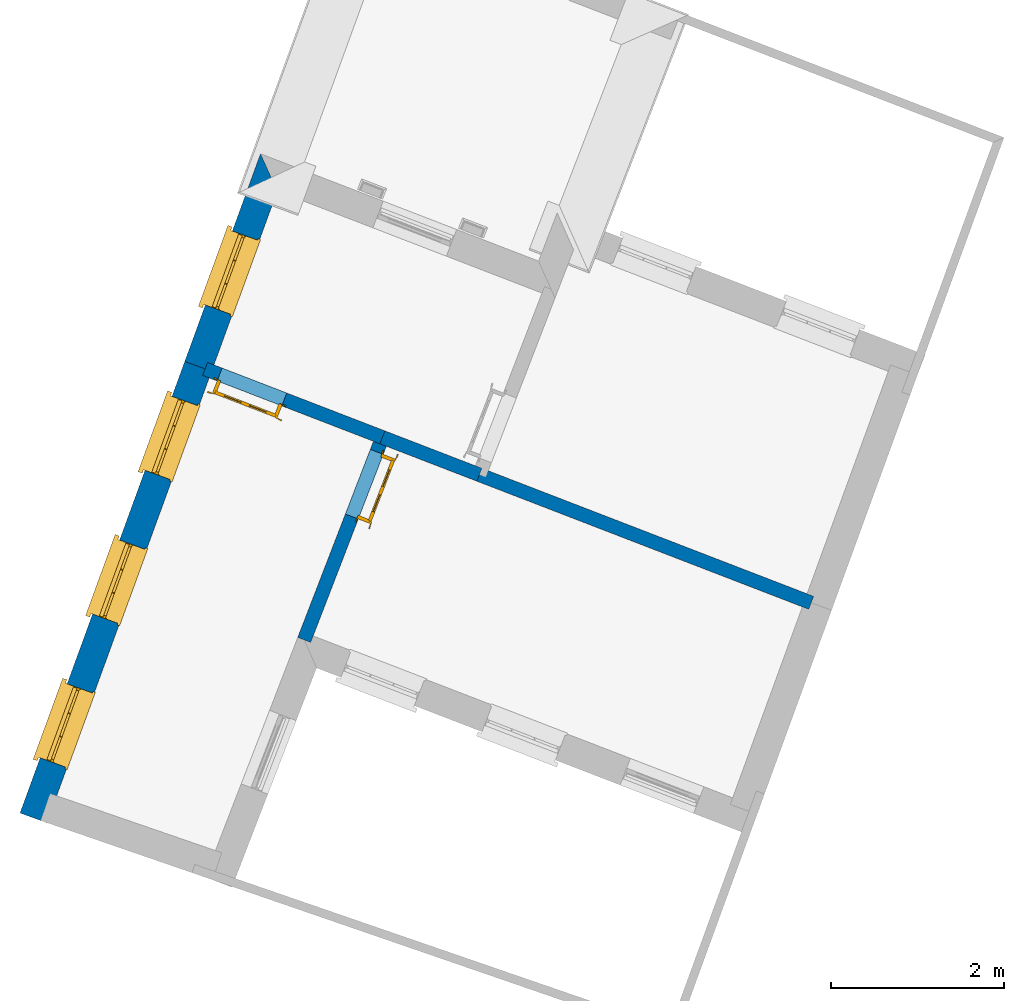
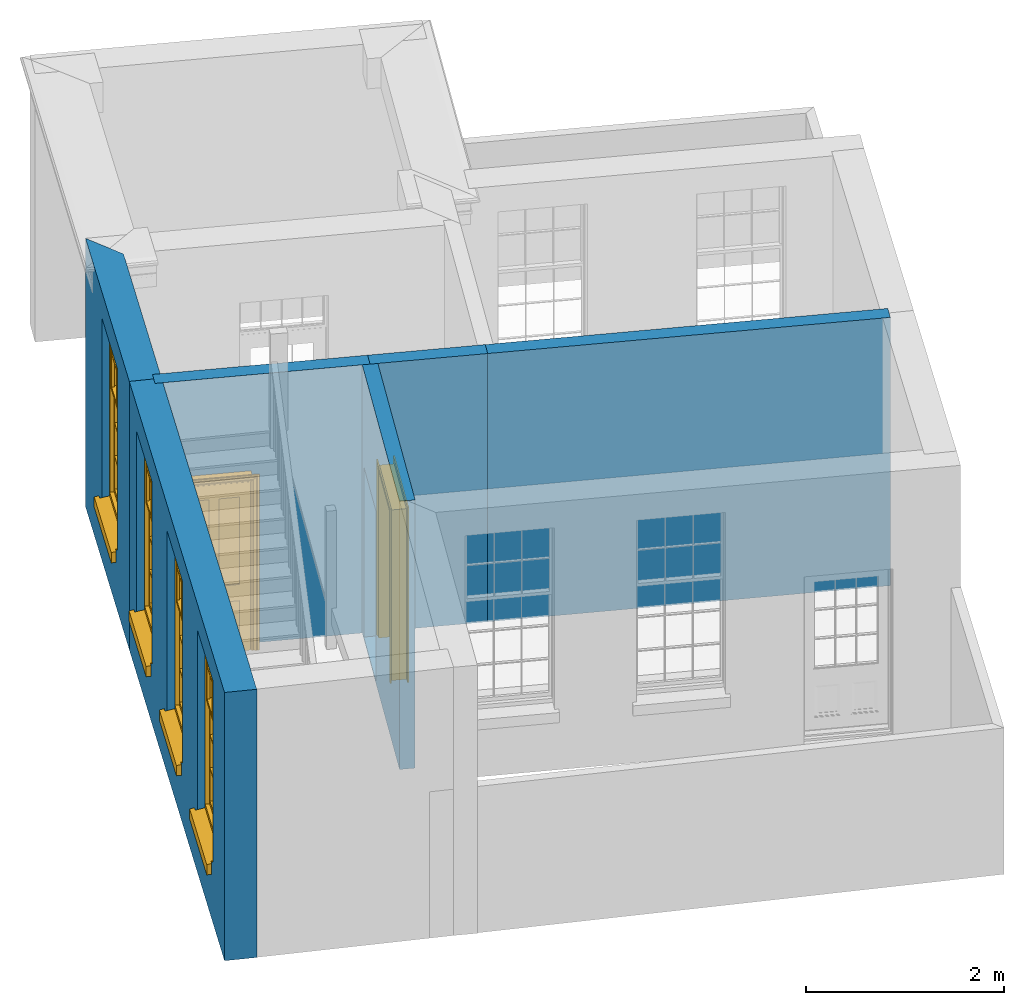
# One storey, part 3 of 6: 6 walls, 4 windows, 2 doors, 6 openings.
"""IFC4 building model written with IfcOpenShell, lengths in metres."""

from ifc_helpers import new_model, si_unit, frame, origin, origin_with_axes, place, context, subcontext, project, spatial, polyline, outline, extrude, faceted_brep, source, transform, mapped, material, layer, layer_set, layer_usage, type_object, type_shapes, element, fill, save


model = new_model("IFC4")

# Units and contexts
model_context = context("Model", 3, world=origin_with_axes())
body_context = subcontext(model_context, "Body", "Model", "MODEL_VIEW")
ifc_project = project(units=[si_unit("PLANEANGLEUNIT", "RADIAN"), si_unit("MASSUNIT", "GRAM", prefix="KILO"), si_unit("FORCEUNIT", "NEWTON", prefix="KILO"), si_unit("LENGTHUNIT", "METRE"), si_unit("AREAUNIT", "SQUARE_METRE"), si_unit("VOLUMEUNIT", "CUBIC_METRE")], contexts=[model_context, model_context])

# Sites, building, storey
site_1_placement = place(None, origin_with_axes())
site_1 = spatial("IfcSite", under=ifc_project, at=site_1_placement, Name="Tamar")
site_2_placement = place(site_1_placement, origin_with_axes())
site_2 = spatial("IfcSite", under=site_1, at=site_2_placement, Name="Site plot-11", CompositionType="ELEMENT")
building_placement = place(None, origin_with_axes())
building = spatial("IfcBuilding", under=site_2, at=building_placement, Name="Building plot-11", CompositionType="ELEMENT")
storey_placement = place(None, frame((0.0, 0.0, 26.8), z_axis=(0.0, 0.0, 1.0), x_axis=(1.0, 0.0, 0.0)))
storey = spatial("IfcBuildingStorey", under=building, at=storey_placement, Name="plot-11 0", CompositionType="ELEMENT", Elevation=26.8)

# Wall, opening, window
ifc_material_1 = material(Name="Masonry")
ifc_layer_1 = layer(ifc_material_1, 0.33, ventilated=False)
ifc_layer_set_1 = layer_set([ifc_layer_1], Name="exterior_0.08_0.25")
ifc_layer_usage_1 = layer_usage(ifc_layer_set_1, "AXIS2", "POSITIVE", -0.25)
wall_type_1 = type_object("IfcWallType", Name="exterior_0.08_0.25", PredefinedType="SOLIDWALL", material=ifc_layer_set_1)
wall_1_placement = place(storey_placement, frame((241.07547392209, 317.190174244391, 0.0), z_axis=(0.0, 0.0, 1.0), x_axis=(-0.342734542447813, -0.939432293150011, 0.0)))
wall_1 = element("IfcWall", 1, at=wall_1_placement, inside=storey, type_object=wall_type_1, material=ifc_layer_usage_1, Name="exterior", context=body_context, shape_type="SweptSolid", body=[
    extrude(outline(polyline([(0.0814951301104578, 0.0799999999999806), (-0.254672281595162, -0.250000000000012), (2.29763429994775, -0.250000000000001), (2.29763429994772, 0.0799999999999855), (0.0814951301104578, 0.0799999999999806)])), origin_with_axes(), (0.0, 0.0, 1.0), 3.3),
])
opening_1_placement = place(wall_1_placement, frame((0.693817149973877, 0.0, 0.75)))
opening_1 = element("IfcOpeningElement", 2, at=opening_1_placement, cuts=wall_1, Name="My Opening", ObjectType="Opening", context=body_context, shape_type="SweptSolid", body=[
    extrude(outline(polyline([(0.0, -0.270000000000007), (0.910000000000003, -0.269999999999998), (0.910000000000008, 1.10000000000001), (3.5527136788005e-15, 1.1), (0.0, -0.270000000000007)])), origin_with_axes(), (0.0, 0.0, 1.0), 2.23),
])
window_type = type_object("IfcWindowType", Name="sash_big_taller", PartitioningType="DOUBLE_PANEL_HORIZONTAL", PredefinedType="NOTDEFINED")
shared_shape_1 = source(origin(), body_context, "Body", "Brep", [
    faceted_brep([(0.033125, 0.145, 1.385209), (0.01, 0.145, 1.385209), (0.033125, 0.145, 1.786042), (0.876875, 0.145, 1.385209), (0.876875, 0.145, 1.786042), (0.9, 0.145, 1.385209), (0.876875, 0.145, 1.796042), (0.876875, 0.145, 2.196875), (0.9, 0.145, 2.22), (0.033125, 0.145, 2.196875), (0.033125, 0.145, 1.796042), (0.01, 0.145, 2.22), (0.876875, 0.115, 1.786042), (0.876875, 0.115, 1.385209), (0.9, 0.115, 1.347084), (0.033125, 0.115, 2.196875), (0.01, 0.115, 2.22), (0.033125, 0.115, 1.796042), (0.01, 0.115, 1.347084), (0.033125, 0.115, 1.385209), (0.033125, 0.115, 1.786042), (0.876875, 0.115, 2.196875), (0.876875, 0.115, 1.796042), (0.9, 0.115, 2.22), (0.033125, 0.145, 1.347084), (0.01, 0.145, 1.347084), (0.033125, 0.145, 0.94625), (0.876875, 0.145, 1.347084), (0.876875, 0.145, 0.94625), (0.9, 0.145, 1.347084), (0.876875, 0.145, 0.52625), (0.876875, 0.145, 0.125417), (0.9, 0.145, 0.077167), (0.033125, 0.145, 0.125417), (0.033125, 0.145, 0.52625), (0.01, 0.145, 0.077167), (-0.0425, 0.0, 0.01), (-0.0425, -0.05, 0.001667), (0.0, 0.0, 0.01), (0.9525, 0.0, 0.01), (0.91, 0.0, 0.01), (0.9525, -0.05, 0.001667), (-0.02, 0.33, 0.077167), (0.0, 0.33, 0.077167), (-0.02, 0.36, 0.077167), (0.0, 0.19, 0.077167), (0.01, 0.19, 0.077167), (0.91, 0.19, 0.077167), (0.91, 0.33, 0.077167), (0.9, 0.19, 0.077167), (0.93, 0.33, 0.077167), (0.93, 0.36, 0.077167), (0.01, 0.175, 1.385209), (0.9, 0.175, 1.385209), (0.876875, 0.175, 0.125417), (0.876875, 0.175, 0.52625), (0.9, 0.175, 0.077167), (0.876875, 0.175, 0.94625), (0.876875, 0.175, 1.347084), (0.033125, 0.175, 0.125417), (0.01, 0.175, 0.077167), (0.033125, 0.175, 0.52625), (0.033125, 0.175, 1.347084), (0.033125, 0.175, 0.94625), (-0.02, 0.33, 0.052167), (-0.02, 0.36, 0.052167), (0.93, 0.36, 0.052167), (0.93, 0.33, 0.052167), (0.91, 0.33, 0.052167), (0.0, 0.33, 0.052167), (0.91, 0.1, 0.026667), (0.0, 0.1, 0.026667), (-0.0425, -0.05, -0.123333), (0.9525, -0.05, -0.123333), (-0.0425, 0.0, -0.123333), (0.9525, 0.0, -0.123333), (0.01, 0.19, 2.22), (0.9, 0.19, 2.22), (0.0, 0.19, 2.23), (0.91, 0.19, 2.23), (0.01, 0.1, 0.077167), (0.9, 0.1, 0.077167), (0.592292, 0.145, 0.125417), (0.592292, 0.175, 0.125417), (0.317708, 0.175, 0.125417), (0.317708, 0.145, 0.125417), (0.592292, 0.145, 0.53625), (0.317708, 0.145, 0.53625), (0.317708, 0.145, 0.52625), (0.592292, 0.145, 0.52625), (0.592292, 0.175, 0.53625), (0.317708, 0.175, 0.53625), (0.592292, 0.115, 1.796042), (0.592292, 0.145, 1.796042), (0.317708, 0.145, 1.796042), (0.317708, 0.115, 1.796042), (0.317708, 0.115, 1.786042), (0.592292, 0.115, 1.786042), (0.317708, 0.145, 1.786042), (0.592292, 0.145, 1.786042), (0.602292, 0.115, 1.786042), (0.592292, 0.115, 1.385209), (0.602292, 0.115, 1.385209), (0.602292, 0.145, 1.385209), (0.592292, 0.145, 1.385209), (0.602292, 0.145, 1.786042), (0.876875, 0.145, 0.53625), (0.876875, 0.175, 0.53625), (0.602292, 0.175, 0.53625), (0.602292, 0.145, 0.53625), (0.317708, 0.175, 0.52625), (0.307708, 0.175, 0.125417), (0.307708, 0.175, 0.52625), (0.602292, 0.175, 0.52625), (0.602292, 0.175, 0.125417), (0.592292, 0.175, 0.52625), (0.307708, 0.175, 0.53625), (0.033125, 0.175, 0.53625), (0.317708, 0.175, 1.347084), (0.317708, 0.175, 0.94625), (0.307708, 0.175, 0.94625), (0.307708, 0.175, 1.347084), (0.602292, 0.175, 1.347084), (0.602292, 0.175, 0.94625), (0.592292, 0.175, 0.94625), (0.592292, 0.175, 1.347084), (0.307708, 0.145, 0.52625), (0.307708, 0.145, 0.125417), (0.307708, 0.145, 0.53625), (0.033125, 0.145, 0.53625), (0.307708, 0.145, 1.347084), (0.307708, 0.145, 0.94625), (0.592292, 0.145, 1.347084), (0.592292, 0.145, 0.94625), (0.317708, 0.145, 0.94625), (0.317708, 0.145, 1.347084), (0.602292, 0.145, 0.94625), (0.602292, 0.145, 1.347084), (0.602292, 0.145, 0.52625), (0.602292, 0.145, 0.125417), (0.307708, 0.115, 1.796042), (0.307708, 0.115, 1.786042), (0.307708, 0.115, 1.385209), (0.317708, 0.115, 1.385209), (0.317708, 0.115, 2.196875), (0.307708, 0.115, 2.196875), (0.602292, 0.115, 2.196875), (0.592292, 0.115, 2.196875), (0.602292, 0.115, 1.796042), (0.602292, 0.145, 1.796042), (0.307708, 0.145, 1.796042), (0.307708, 0.145, 2.196875), (0.317708, 0.145, 2.196875), (0.592292, 0.145, 2.196875), (0.602292, 0.145, 2.196875), (0.307708, 0.145, 1.786042), (0.317708, 0.145, 1.385209), (0.307708, 0.145, 1.385209), (0.876875, 0.175, 0.93625), (0.033125, 0.175, 0.93625), (0.033125, 0.145, 0.93625), (0.876875, 0.145, 0.93625), (0.91, 0.1, 2.23), (0.9, 0.1, 2.22), (0.01, 0.1, 2.22), (0.0, 0.1, 2.23), (0.91, 0.0, 0.0), (0.0, 0.0, 0.0), (0.91, 0.33, 0.0), (0.0, 0.33, 0.0), (0.317708, 0.145, 0.93625), (0.592292, 0.145, 0.93625), (0.317708, 0.175, 0.93625), (0.307708, 0.175, 0.93625), (0.602292, 0.175, 0.93625), (0.592292, 0.175, 0.93625), (0.307708, 0.145, 0.93625), (0.602292, 0.145, 0.93625)], [[[0, 1, 2]], [[3, 4, 5]], [[6, 7, 8]], [[9, 10, 11]], [[12, 13, 14]], [[15, 16, 17]], [[18, 19, 20]], [[21, 22, 23]], [[24, 25, 26]], [[27, 28, 29]], [[30, 31, 32]], [[33, 34, 35]], [[14, 27, 29]], [[25, 24, 18]], [[36, 37, 38]], [[39, 40, 41]], [[42, 43, 44]], [[45, 46, 43]], [[47, 48, 49]], [[50, 51, 48]], [[1, 0, 52]], [[5, 53, 3]], [[54, 55, 56]], [[57, 58, 53]], [[59, 60, 61]], [[62, 63, 52]], [[48, 43, 46, 49]], [[51, 44, 43, 48]], [[64, 42, 44, 65]], [[65, 44, 51, 66]], [[66, 51, 50, 67]], [[65, 66, 68, 69]], [[60, 56, 49, 46]], [[70, 71, 38, 40]], [[37, 41, 40, 38]], [[37, 72, 73, 41]], [[74, 75, 73, 72]], [[8, 11, 76, 77]], [[76, 78, 79, 77]], [[32, 35, 80, 81]], [[81, 80, 71, 70]], [[82, 83, 84, 85]], [[86, 87, 88, 89]], [[86, 90, 91, 87]], [[92, 93, 94, 95]], [[92, 95, 96, 97]], [[96, 98, 99, 97]], [[100, 97, 101, 102]], [[103, 104, 99, 105]], [[97, 99, 104, 101]], [[102, 103, 105, 100]], [[106, 107, 108, 109]], [[110, 84, 111, 112]], [[113, 114, 83, 115]], [[116, 112, 61, 117]], [[90, 115, 110, 91]], [[118, 119, 120, 121]], [[122, 123, 124, 125]], [[113, 108, 107, 55]], [[126, 112, 111, 127]], [[34, 61, 112, 126]], [[89, 115, 83, 82]], [[88, 110, 115, 89]], [[85, 84, 110, 88]], [[128, 116, 117, 129]], [[130, 121, 120, 131]], [[132, 125, 124, 133]], [[134, 119, 118, 135]], [[136, 123, 122, 137]], [[138, 113, 55, 30]], [[139, 114, 113, 138]], [[138, 30, 106, 109]], [[88, 126, 127, 85]], [[138, 89, 82, 139]], [[137, 132, 133, 136]], [[128, 129, 34, 126]], [[135, 130, 131, 134]], [[140, 17, 20, 141]], [[96, 141, 142, 143]], [[144, 145, 140, 95]], [[146, 147, 92, 148]], [[100, 12, 22, 148]], [[149, 6, 4, 105]], [[94, 150, 151, 152]], [[149, 93, 153, 154]], [[99, 98, 94, 93]], [[155, 2, 10, 150]], [[156, 157, 155, 98]], [[141, 155, 157, 142]], [[20, 2, 155, 141]], [[143, 156, 98, 96]], [[140, 150, 10, 17]], [[145, 151, 150, 140]], [[147, 153, 93, 92]], [[95, 94, 152, 144]], [[22, 6, 149, 148]], [[148, 149, 154, 146]], [[100, 105, 4, 12]], [[109, 86, 89, 138]], [[108, 113, 115, 90]], [[91, 110, 112, 116]], [[87, 128, 126, 88]], [[97, 100, 148, 92]], [[141, 96, 95, 140]], [[98, 155, 150, 94]], [[105, 99, 93, 149]], [[143, 101, 104, 156]], [[135, 118, 125, 132]], [[144, 152, 153, 147]], [[127, 111, 59, 33]], [[15, 9, 151, 145]], [[146, 154, 7, 21]], [[31, 54, 114, 139]], [[36, 74, 72, 37]], [[39, 41, 73, 75]], [[18, 14, 101, 143]], [[23, 16, 144, 147]], [[83, 56, 60, 84]], [[52, 53, 125, 118]], [[53, 52, 156, 104]], [[11, 8, 153, 152]], [[14, 18, 135, 132]], [[2, 1, 11, 10]], [[8, 5, 4, 6]], [[57, 53, 56, 158]], [[60, 52, 63, 159]], [[26, 25, 35, 160]], [[32, 29, 28, 161]], [[14, 23, 22, 12]], [[18, 20, 17, 16]], [[19, 0, 2, 20]], [[17, 10, 9, 15]], [[12, 4, 3, 13]], [[21, 7, 6, 22]], [[27, 58, 57, 28]], [[30, 55, 54, 31]], [[33, 59, 61, 34]], [[26, 63, 62, 24]], [[5, 8, 77, 53]], [[76, 11, 1, 52]], [[46, 45, 78, 76]], [[49, 77, 79, 47]], [[70, 162, 163, 81]], [[71, 80, 164, 165]], [[19, 142, 157, 0]], [[102, 13, 3, 103]], [[121, 130, 24, 62]], [[29, 32, 81, 14]], [[80, 35, 25, 18]], [[60, 46, 76, 52]], [[77, 49, 56, 53]], [[23, 14, 81, 163]], [[16, 164, 80, 18]], [[35, 85, 127]], [[127, 33, 35]], [[139, 82, 32]], [[32, 31, 139]], [[32, 82, 85, 35]], [[102, 101, 14]], [[14, 13, 102]], [[18, 143, 142]], [[142, 19, 18]], [[146, 21, 23]], [[23, 147, 146]], [[16, 15, 145]], [[145, 144, 16]], [[11, 152, 151]], [[151, 9, 11]], [[154, 153, 8]], [[8, 7, 154]], [[23, 163, 164, 16]], [[162, 165, 164, 163]], [[52, 118, 121]], [[121, 62, 52]], [[125, 53, 122]], [[58, 122, 53]], [[27, 137, 122, 58]], [[56, 83, 114]], [[114, 54, 56]], [[111, 84, 60]], [[60, 59, 111]], [[137, 27, 14]], [[14, 132, 137]], [[130, 135, 18]], [[18, 24, 130]], [[157, 156, 52]], [[52, 0, 157]], [[103, 3, 53]], [[53, 104, 103]], [[79, 78, 165, 162]], [[78, 45, 71, 165]], [[162, 70, 47, 79]], [[166, 75, 74, 167]], [[68, 66, 67]], [[48, 68, 67, 50]], [[69, 64, 65]], [[42, 64, 69, 43]], [[69, 68, 168, 169]], [[70, 68, 48, 47]], [[166, 168, 68, 70]], [[43, 69, 71, 45]], [[69, 169, 167, 71]], [[168, 166, 167, 169]], [[38, 167, 74, 36]], [[71, 167, 38]], [[39, 75, 166, 40]], [[40, 166, 70]], [[133, 134, 170, 171]], [[133, 124, 119, 134]], [[28, 57, 123, 136]], [[172, 91, 116, 173]], [[174, 108, 90, 175]], [[120, 173, 159, 63]], [[124, 175, 172, 119]], [[174, 123, 57, 158]], [[176, 173, 116, 128]], [[160, 159, 173, 176]], [[171, 175, 90, 86]], [[170, 172, 175, 171]], [[87, 91, 172, 170]], [[131, 120, 63, 26]], [[177, 174, 158, 161]], [[109, 108, 174, 177]], [[177, 161, 28, 136]], [[170, 176, 128, 87]], [[177, 171, 86, 109]], [[131, 26, 160, 176]], [[136, 133, 171, 177]], [[123, 174, 175, 124]], [[119, 172, 173, 120]], [[134, 131, 176, 170]], [[129, 117, 159, 160]], [[161, 158, 107, 106]], [[35, 34, 129]], [[35, 129, 160]], [[32, 106, 30]], [[32, 161, 106]], [[56, 55, 107]], [[56, 107, 158]], [[60, 117, 61]], [[60, 159, 117]]]),
])
type_shapes(window_type, [shared_shape_1])
window_1_placement = place(storey_placement, frame((240.584032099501, 316.630918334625, 0.75), z_axis=(0.0, 0.0, 1.0), x_axis=(-0.311888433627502, -0.854883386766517, 0.0)))
window_1 = element("IfcWindow", 3, at=window_1_placement, inside=storey, type_object=window_type, Name="circulation street window", OverallHeight=2.23, OverallWidth=0.91, context=body_context, shape_type="MappedRepresentation", body=[
    mapped(shared_shape_1, transform((0.0, 0.0, 0.0), scale=1.0)),
])
fill(opening_1, window_1)

# Wall, openings, windows
wall_2_placement = place(storey_placement, frame((240.287995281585, 315.031702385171, 0.0), z_axis=(0.0, 0.0, 1.0), x_axis=(-0.342734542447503, -0.939432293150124, 0.0)))
wall_2 = element("IfcWall", 4, at=wall_2_placement, inside=storey, type_object=wall_type_1, material=ifc_layer_usage_1, Name="exterior", context=body_context, shape_type="SweptSolid", body=[
    extrude(outline(polyline([(2.05910435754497e-14, 0.0799999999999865), (-5.64950438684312e-14, -0.25), (5.54967232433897, -0.25000000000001), (5.54967232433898, 0.0800000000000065), (2.05910435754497e-14, 0.0799999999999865)])), origin_with_axes(), (0.0, 0.0, 1.0), 3.3),
])
opening_2_placement = place(wall_2_placement, frame((0.428278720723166, 0.0, 0.75)))
opening_2 = element("IfcOpeningElement", 5, at=opening_2_placement, cuts=wall_2, Name="My Opening", ObjectType="Opening", context=body_context, shape_type="SweptSolid", body=[
    extrude(outline(polyline([(0.0, -0.269999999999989), (0.909999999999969, -0.27000000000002), (0.90999999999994, 1.09999999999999), (-2.91433543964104e-14, 1.10000000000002), (0.0, -0.269999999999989)])), origin_with_axes(), (0.0, 0.0, 1.0), 2.23),
])
opening_3_placement = place(wall_2_placement, frame((2.1948361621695, 0.0, 0.75)))
opening_3 = element("IfcOpeningElement", 6, at=opening_3_placement, cuts=wall_2, Name="My Opening", ObjectType="Opening", context=body_context, shape_type="SweptSolid", body=[
    extrude(outline(polyline([(0.0, -0.270000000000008), (0.90999999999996, -0.270000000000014), (0.909999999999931, 1.1), (-2.88657986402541e-14, 1.1), (0.0, -0.270000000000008)])), origin_with_axes(), (0.0, 0.0, 1.0), 2.23),
])
opening_4_placement = place(wall_2_placement, frame((3.96139360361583, 0.0, 0.75)))
opening_4 = element("IfcOpeningElement", 7, at=opening_4_placement, cuts=wall_2, Name="My Opening", ObjectType="Opening", context=body_context, shape_type="SweptSolid", body=[
    extrude(outline(polyline([(0.0, -0.269999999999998), (0.909999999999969, -0.270000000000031), (0.90999999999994, 1.09999999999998), (-2.93098878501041e-14, 1.10000000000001), (0.0, -0.269999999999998)])), origin_with_axes(), (0.0, 0.0, 1.0), 2.23),
])
window_2_placement = place(storey_placement, frame((239.887562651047, 314.721901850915, 0.75), z_axis=(0.0, 0.0, 1.0), x_axis=(-0.311888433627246, -0.854883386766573, 0.0)))
window_2 = element("IfcWindow", 8, at=window_2_placement, inside=storey, type_object=window_type, Name="circulation street window", OverallHeight=2.23, OverallWidth=0.91, context=body_context, shape_type="MappedRepresentation", body=[
    mapped(shared_shape_1, transform((0.0, 0.0, 0.0), scale=1.0)),
])
fill(opening_2, window_2)
window_3_placement = place(storey_placement, frame((239.282102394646, 313.062340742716, 0.75), z_axis=(0.0, 0.0, 1.0), x_axis=(-0.311888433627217, -0.854883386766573, 0.0)))
window_3 = element("IfcWindow", 9, at=window_3_placement, inside=storey, type_object=window_type, Name="circulation street window", OverallHeight=2.23, OverallWidth=0.91, context=body_context, shape_type="MappedRepresentation", body=[
    mapped(shared_shape_1, transform((0.0, 0.0, 0.0), scale=1.0)),
])
fill(opening_3, window_3)
window_4_placement = place(storey_placement, frame((238.676642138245, 311.402779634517, 0.75), z_axis=(0.0, 0.0, 1.0), x_axis=(-0.311888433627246, -0.854883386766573, 0.0)))
window_4 = element("IfcWindow", 10, at=window_4_placement, inside=storey, type_object=window_type, Name="circulation street window", OverallHeight=2.23, OverallWidth=0.91, context=body_context, shape_type="MappedRepresentation", body=[
    mapped(shared_shape_1, transform((0.0, 0.0, 0.0), scale=1.0)),
])
fill(opening_4, window_4)

# Walls
ifc_material_2 = material(Name="Masonry")
ifc_layer_2 = layer(ifc_material_2, 0.16, ventilated=False)
ifc_layer_set_2 = layer_set([ifc_layer_2], Name="interior_0.08_0.08")
ifc_layer_usage_2 = layer_usage(ifc_layer_set_2, "AXIS2", "POSITIVE", -0.08)
wall_type_2 = type_object("IfcWallType", Name="interior_0.08_0.08", PredefinedType="SOLIDWALL", material=ifc_layer_set_2)
wall_3_placement = place(storey_placement, frame((243.454609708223, 313.809526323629, 0.0), z_axis=(0.0, 0.0, 1.0), x_axis=(-0.93292570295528, 0.360068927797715, 0.0)))
element("IfcWall", 11, at=wall_3_placement, inside=storey, type_object=wall_type_2, material=ifc_layer_usage_2, Name="interior", context=body_context, shape_type="SweptSolid", body=[
    extrude(outline(polyline([(-7.24263731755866e-15, 0.0800000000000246), (7.27019806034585e-15, -0.0800000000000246), (1.19993859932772, -0.0800000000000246), (1.1999385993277, 0.0800000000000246), (-7.24263731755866e-15, 0.0800000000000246)])), origin_with_axes(), (0.0, 0.0, 1.0), 3.3),
])
wall_4_placement = place(storey_placement, frame((243.454609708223, 313.809526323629, 0.0), z_axis=(0.0, 0.0, 1.0), x_axis=(0.932925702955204, -0.360068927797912, 0.0)))
element("IfcWall", 12, at=wall_4_placement, inside=storey, type_object=wall_type_2, material=ifc_layer_usage_2, Name="interior", context=body_context, shape_type="SweptSolid", body=[
    extrude(outline(polyline([(-3.68992363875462e-15, 0.0799999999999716), (3.68012646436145e-15, -0.0799999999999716), (4.10700216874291, -0.0799999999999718), (4.1070021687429, 0.0799999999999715), (-3.68992363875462e-15, 0.0799999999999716)])), origin_with_axes(), (0.0, 0.0, 1.0), 3.3),
])

# Wall, opening, door
wall_5_placement = place(storey_placement, frame((242.335156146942, 314.241586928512, 0.0), z_axis=(0.0, 0.0, 1.0), x_axis=(-0.360068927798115, -0.932925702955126, 0.0)))
wall_5 = element("IfcWall", 13, at=wall_5_placement, inside=storey, type_object=wall_type_2, material=ifc_layer_usage_2, Name="interior", context=body_context, shape_type="SweptSolid", body=[
    extrude(outline(polyline([(-4.77533209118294e-15, 0.0800000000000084), (4.76553491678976e-15, -0.0800000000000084), (2.50716793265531, -0.0800000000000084), (2.5071679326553, 0.0800000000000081), (-4.77533209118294e-15, 0.0800000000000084)])), origin_with_axes(), (0.0, 0.0, 1.0), 3.3),
])
opening_5_placement = place(wall_5_placement, frame((0.180000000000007, 0.0, 0.0199999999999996)))
opening_5 = element("IfcOpeningElement", 14, at=opening_5_placement, cuts=wall_5, Name="My Opening", ObjectType="Opening", context=body_context, shape_type="SweptSolid", body=[
    extrude(outline(polyline([(0.0, -0.100000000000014), (0.799999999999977, -0.100000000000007), (0.80000000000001, 1.10000000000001), (3.28903571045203e-14, 1.1), (0.0, -0.100000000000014)])), origin_with_axes(), (0.0, 0.0, 1.0), 2.1),
])
door_type = type_object("IfcDoorType", Name="door_inside", OperationType="SINGLE_SWING_LEFT", PredefinedType="NOTDEFINED")
shared_shape_2 = source(origin(), body_context, "Body", "Brep", [
    faceted_brep([(0.773, 0.33, 1.895), (0.66, 0.33, 1.895), (0.66, 0.33, 2.073), (0.773, 0.33, 2.073), (0.773, 0.33, 0.82), (0.66, 0.33, 0.82), (0.45, 0.33, 1.895), (0.45, 0.33, 2.073), (0.773, 0.33, 0.62), (0.66, 0.33, 0.62), (0.66, 0.315, 0.82), (0.66, 0.315, 1.895), (0.45, 0.315, 1.895), (0.35, 0.33, 1.895), (0.35, 0.33, 2.073), (0.773, 0.33, 0.225), (0.66, 0.33, 0.225), (0.45, 0.33, 0.62), (0.45, 0.33, 0.82), (0.45, 0.315, 0.82), (0.35, 0.33, 0.82), (0.14, 0.33, 2.073), (0.14, 0.33, 1.895), (0.773, 0.33, 0.0), (0.66, 0.33, 0.0), (0.66, 0.315, 0.225), (0.66, 0.315, 0.62), (0.45, 0.315, 0.62), (0.35, 0.33, 0.62), (0.35, 0.315, 0.82), (0.35, 0.315, 1.895), (0.14, 0.315, 1.895), (0.027, 0.33, 2.073), (0.027, 0.33, 1.895), (0.773, 0.292, 0.0), (0.66, 0.292, 0.0), (0.45, 0.33, 0.0), (0.45, 0.33, 0.225), (0.45, 0.315, 0.225), (0.35, 0.33, 0.225), (0.14, 0.33, 0.82), (0.14, 0.33, 0.62), (0.14, 0.315, 0.82), (0.027, 0.33, 0.82), (0.773, 0.292, 0.225), (0.66, 0.292, 0.225), (0.45, 0.292, 0.0), (0.35, 0.33, 0.0), (0.35, 0.315, 0.225), (0.35, 0.315, 0.62), (0.14, 0.315, 0.62), (0.027, 0.33, 0.62), (0.773, 0.292, 0.62), (0.66, 0.292, 0.62), (0.45, 0.292, 0.225), (0.35, 0.292, 0.0), (0.14, 0.33, 0.225), (0.14, 0.33, 0.0), (0.14, 0.315, 0.225), (0.027, 0.33, 0.225), (0.773, 0.292, 0.82), (0.66, 0.292, 0.82), (0.66, 0.307, 0.62), (0.66, 0.307, 0.225), (0.45, 0.307, 0.225), (0.35, 0.292, 0.225), (0.14, 0.292, 0.0), (0.027, 0.33, 0.0), (0.773, 0.292, 1.895), (0.66, 0.292, 1.895), (0.45, 0.292, 0.62), (0.45, 0.292, 0.82), (0.45, 0.307, 0.62), (0.35, 0.292, 0.62), (0.14, 0.292, 0.225), (0.027, 0.292, 0.0), (0.773, 0.292, 2.073), (0.66, 0.292, 2.073), (0.66, 0.307, 1.895), (0.66, 0.307, 0.82), (0.45, 0.307, 0.82), (0.35, 0.292, 0.82), (0.35, 0.307, 0.62), (0.35, 0.307, 0.225), (0.14, 0.307, 0.225), (0.027, 0.292, 0.225), (0.45, 0.292, 1.895), (0.45, 0.292, 2.073), (0.45, 0.307, 1.895), (0.35, 0.292, 1.895), (0.14, 0.292, 0.82), (0.14, 0.292, 0.62), (0.14, 0.307, 0.62), (0.027, 0.292, 0.62), (0.35, 0.292, 2.073), (0.35, 0.307, 1.895), (0.35, 0.307, 0.82), (0.14, 0.307, 0.82), (0.027, 0.292, 0.82), (0.14, 0.292, 2.073), (0.14, 0.292, 1.895), (0.14, 0.307, 1.895), (0.027, 0.292, 1.895), (0.027, 0.292, 2.073), (0.02, 0.335, 0.0), (0.005, 0.34, 0.0), (0.005, 0.34, 2.095), (0.02, 0.335, 2.08), (0.02, 0.33, 0.0), (0.0, 0.335, 0.0), (0.0, 0.335, 2.1), (0.795, 0.34, 2.095), (0.78, 0.335, 2.08), (0.02, 0.33, 2.08), (0.0, 0.33, 0.0), (-0.032, 0.345, 0.0), (-0.032, 0.345, 2.132), (0.8, 0.335, 2.1), (0.795, 0.34, 0.0), (0.78, 0.335, 0.0), (0.78, 0.33, 2.08), (0.04, 0.29, 0.0), (0.025, 0.29, 0.0), (0.025, 0.29, 2.075), (0.04, 0.29, 2.06), (-0.04, 0.34, 0.0), (-0.04, 0.34, 2.14), (0.832, 0.345, 2.132), (0.8, 0.335, 0.0), (0.78, 0.33, 0.0), (0.8, 0.33, 0.0), (0.86, 0.33, 0.0), (0.86, 0.33, 2.16), (0.8, 0.33, 2.1), (-0.06, 0.33, 2.16), (0.0, 0.33, 2.1), (-0.06, 0.33, 0.0), (-0.04, 0.345, 0.0), (-0.04, 0.345, 2.14), (0.84, 0.34, 2.14), (0.832, 0.345, 0.0), (0.84, 0.34, 0.0), (0.86, 0.345, 0.0), (0.86, 0.345, 2.16), (-0.06, 0.345, 2.16), (-0.06, 0.345, 0.0), (0.84, 0.345, 0.0), (0.84, 0.345, 2.14), (-0.025, 0.155, 0.0), (-0.025, 0.16, 0.0), (-0.025, 0.16, 2.125), (-0.025, 0.155, 2.125), (-0.017, 0.155, 0.0), (-0.017, 0.155, 2.117), (0.825, 0.16, 2.125), (0.825, 0.155, 2.125), (0.825, 0.155, 0.0), (0.845, 0.155, 0.0), (-0.045, 0.155, 2.145), (-0.045, 0.155, 0.0), (0.845, 0.155, 2.145), (0.015, 0.165, 0.0), (0.015, 0.165, 2.085), (0.817, 0.155, 2.117), (0.825, 0.16, 0.0), (0.845, 0.17, 0.0), (0.845, 0.17, 2.145), (-0.045, 0.17, 2.145), (-0.045, 0.17, 0.0), (0.02, 0.16, 0.0), (0.02, 0.16, 2.08), (0.785, 0.165, 2.085), (0.817, 0.155, 0.0), (0.8, 0.17, 0.0), (0.8, 0.17, 2.1), (0.0, 0.17, 2.1), (0.0, 0.17, 0.0), (0.035, 0.165, 0.0), (0.035, 0.165, 2.065), (0.78, 0.16, 2.08), (0.785, 0.165, 0.0), (0.775, 0.29, 2.075), (0.76, 0.29, 2.06), (0.035, 0.17, 2.065), (0.035, 0.17, 0.0), (0.765, 0.165, 2.065), (0.78, 0.16, 0.0), (0.765, 0.17, 0.0), (0.765, 0.17, 2.065), (0.765, 0.165, 0.0), (0.04, 0.17, 2.06), (0.04, 0.17, 0.0), (0.76, 0.17, 2.06), (0.76, 0.17, 0.0), (0.76, 0.29, 0.0), (0.775, 0.29, 0.0), (0.025, 0.33, 0.0), (0.025, 0.33, 2.075), (0.775, 0.33, 0.0), (0.775, 0.33, 2.075)], [[[0, 1, 2, 3]], [[1, 0, 4, 5]], [[1, 6, 7, 2]], [[8, 9, 5, 4]], [[1, 5, 10, 11]], [[6, 1, 11, 12]], [[6, 13, 14, 7]], [[15, 16, 9, 8]], [[9, 17, 18, 5]], [[5, 18, 19, 10]], [[10, 19, 12, 11]], [[18, 6, 12, 19]], [[18, 20, 13, 6]], [[21, 14, 13, 22]], [[23, 24, 16, 15]], [[9, 16, 25, 26]], [[17, 9, 26, 27]], [[17, 28, 20, 18]], [[13, 20, 29, 30]], [[22, 13, 30, 31]], [[32, 21, 22, 33]], [[34, 35, 24, 23]], [[24, 36, 37, 16]], [[16, 37, 38, 25]], [[25, 38, 27, 26]], [[37, 17, 27, 38]], [[37, 39, 28, 17]], [[40, 20, 28, 41]], [[20, 40, 42, 29]], [[31, 30, 29, 42]], [[40, 22, 31, 42]], [[33, 22, 40, 43]], [[35, 34, 44, 45]], [[35, 46, 36, 24]], [[36, 47, 39, 37]], [[28, 39, 48, 49]], [[41, 28, 49, 50]], [[43, 40, 41, 51]], [[45, 44, 52, 53]], [[46, 35, 45, 54]], [[46, 55, 47, 36]], [[56, 39, 47, 57]], [[39, 56, 58, 48]], [[50, 49, 48, 58]], [[56, 41, 50, 58]], [[51, 41, 56, 59]], [[53, 52, 60, 61]], [[45, 53, 62, 63]], [[54, 45, 63, 64]], [[55, 46, 54, 65]], [[55, 66, 57, 47]], [[59, 56, 57, 67]], [[61, 60, 68, 69]], [[70, 53, 61, 71]], [[53, 70, 72, 62]], [[72, 64, 63, 62]], [[70, 54, 64, 72]], [[65, 54, 70, 73]], [[65, 74, 66, 55]], [[67, 57, 66, 75]], [[69, 68, 76, 77]], [[61, 69, 78, 79]], [[71, 61, 79, 80]], [[73, 70, 71, 81]], [[65, 73, 82, 83]], [[74, 65, 83, 84]], [[74, 85, 75, 66]], [[86, 69, 77, 87]], [[69, 86, 88, 78]], [[88, 80, 79, 78]], [[86, 71, 80, 88]], [[81, 71, 86, 89]], [[73, 81, 90, 91]], [[73, 91, 92, 82]], [[83, 82, 92, 84]], [[91, 74, 84, 92]], [[91, 93, 85, 74]], [[89, 86, 87, 94]], [[81, 89, 95, 96]], [[90, 81, 96, 97]], [[90, 98, 93, 91]], [[94, 99, 100, 89]], [[89, 100, 101, 95]], [[101, 97, 96, 95]], [[100, 90, 97, 101]], [[100, 102, 98, 90]], [[99, 103, 102, 100]], [[32, 103, 99, 21]], [[102, 103, 32, 33]], [[98, 102, 33, 43]], [[21, 99, 94, 14]], [[94, 87, 7, 14]], [[7, 87, 77, 2]], [[76, 3, 2, 77]], [[43, 51, 93, 98]], [[51, 59, 85, 93]], [[67, 75, 85, 59]], [[34, 23, 15, 44]], [[44, 15, 8, 52]], [[52, 8, 4, 60]], [[0, 68, 60, 4]], [[0, 3, 76, 68]], [[104, 105, 106, 107]], [[104, 108, 109, 105]], [[105, 109, 110, 106]], [[107, 106, 111, 112]], [[107, 113, 108, 104]], [[114, 109, 108]], [[109, 115, 116, 110]], [[106, 110, 117, 111]], [[112, 111, 118, 119]], [[113, 107, 112, 120]], [[121, 122, 123, 124]], [[115, 109, 114, 125]], [[115, 125, 126, 116]], [[110, 116, 127, 117]], [[111, 117, 128, 118]], [[118, 128, 129, 119]], [[120, 112, 119, 129]], [[130, 129, 128]], [[130, 131, 132, 133]], [[133, 132, 134, 135]], [[135, 134, 136, 114]], [[136, 125, 114]], [[125, 137, 138, 126]], [[116, 126, 139, 127]], [[117, 127, 140, 128]], [[141, 130, 128, 140]], [[131, 130, 141]], [[131, 142, 143, 132]], [[132, 143, 144, 134]], [[134, 144, 145, 136]], [[137, 125, 136, 145]], [[143, 142, 146]], [[143, 146, 147]], [[137, 145, 144]], [[143, 147, 138]], [[138, 137, 144]], [[143, 138, 144]], [[126, 138, 147, 139]], [[127, 139, 141, 140]], [[142, 131, 141, 146]], [[139, 147, 146, 141]], [[148, 149, 150, 151]], [[149, 152, 153, 150]], [[151, 150, 154, 155]], [[155, 156, 157]], [[158, 159, 148]], [[158, 148, 151]], [[155, 157, 160]], [[158, 151, 155]], [[155, 160, 158]], [[152, 161, 162, 153]], [[150, 153, 163, 154]], [[155, 154, 164, 156]], [[156, 164, 165, 157]], [[157, 165, 166, 160]], [[160, 166, 167, 158]], [[158, 167, 168, 159]], [[161, 169, 170, 162]], [[153, 162, 171, 163]], [[154, 163, 172, 164]], [[165, 164, 173]], [[165, 173, 174, 166]], [[166, 174, 175, 167]], [[167, 175, 176, 168]], [[169, 177, 178, 170]], [[162, 170, 179, 171]], [[163, 171, 180, 172]], [[172, 180, 173, 164]], [[124, 123, 181, 182]], [[183, 178, 177, 184]], [[170, 178, 185, 179]], [[171, 179, 186, 180]], [[187, 173, 180]], [[185, 188, 187, 189]], [[188, 185, 178, 183]], [[179, 185, 189, 186]], [[189, 187, 180, 186]], [[190, 183, 184, 191]], [[192, 188, 183, 190]], [[191, 184, 122, 121]], [[124, 190, 191, 121]], [[193, 187, 188, 192]], [[182, 192, 190, 124]], [[184, 176, 122]], [[194, 195, 187, 193]], [[192, 182, 194, 193]], [[161, 176, 184]], [[114, 108, 122, 176]], [[173, 187, 195]], [[152, 149, 176, 161]], [[169, 161, 184, 177]], [[196, 122, 108]], [[176, 175, 135, 114]], [[173, 195, 129, 130]], [[176, 149, 168]], [[123, 122, 196, 197]], [[196, 108, 113, 197]], [[175, 174, 133, 135]], [[198, 129, 195]], [[133, 174, 173, 130]], [[159, 168, 149, 148]], [[181, 123, 197, 199]], [[197, 113, 120, 199]], [[199, 120, 129, 198]], [[195, 181, 199, 198]], [[195, 194, 182, 181]]]),
])
type_shapes(door_type, [shared_shape_2])
door_1_placement = place(storey_placement, frame((242.177051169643, 314.10966719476, 0.0199999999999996), z_axis=(0.0, 0.0, 1.0), x_axis=(-0.288055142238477, -0.746340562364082, 0.0)))
door_1 = element("IfcDoor", 15, at=door_1_placement, inside=storey, type_object=door_type, Name="bedroom inside door", OverallHeight=2.1, OverallWidth=0.8, context=body_context, shape_type="MappedRepresentation", body=[
    mapped(shared_shape_2, transform((0.0, 0.0, 0.0), scale=1.0)),
])
fill(opening_5, door_1)

wall_6_placement = place(storey_placement, frame((242.335156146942, 314.241586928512, 0.0), z_axis=(0.0, 0.0, 1.0), x_axis=(-0.932925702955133, 0.360068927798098, 0.0)))
wall_6 = element("IfcWall", 16, at=wall_6_placement, inside=storey, type_object=wall_type_2, material=ifc_layer_usage_2, Name="interior", context=body_context, shape_type="SweptSolid", body=[
    extrude(outline(polyline([(6.86163598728e-15, 0.0799999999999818), (-6.85183881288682e-15, -0.0799999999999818), (2.19434501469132, -0.0799999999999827), (2.19434501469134, 0.0799999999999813), (6.86163598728e-15, 0.0799999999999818)])), origin_with_axes(), (0.0, 0.0, 1.0), 3.3),
])
opening_6_placement = place(wall_6_placement, frame((1.21434501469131, 0.0, 0.0199999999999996)))
opening_6 = element("IfcOpeningElement", 17, at=opening_6_placement, cuts=wall_6, Name="My Opening", ObjectType="Opening", context=body_context, shape_type="SweptSolid", body=[
    extrude(outline(polyline([(0.0, -0.0999999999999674), (0.799999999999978, -0.0999999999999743), (0.800000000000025, 1.09999999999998), (4.72955008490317e-14, 1.09999999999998), (0.0, -0.0999999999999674)])), origin_with_axes(), (0.0, 0.0, 1.0), 2.1),
])
door_2_placement = place(storey_placement, frame((241.238269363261, 314.772127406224, 0.0199999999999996), z_axis=(0.0, 0.0, 1.0), x_axis=(-0.746340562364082, 0.288055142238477, 0.0)))
door_2 = element("IfcDoor", 18, at=door_2_placement, inside=storey, type_object=door_type, Name="circulation inside door", OverallHeight=2.1, OverallWidth=0.8, context=body_context, shape_type="MappedRepresentation", body=[
    mapped(shared_shape_2, transform((0.0, 0.0, 0.0), scale=1.0)),
])
fill(opening_6, door_2)

save(model, "model.ifc")
